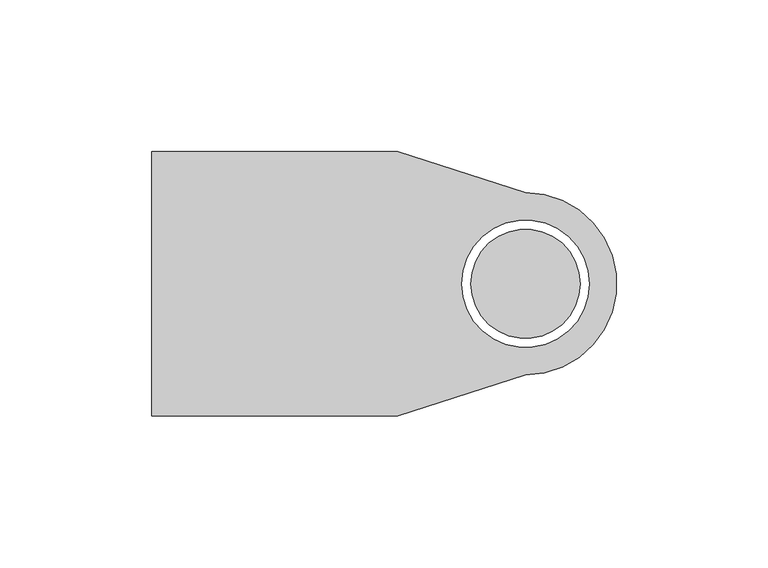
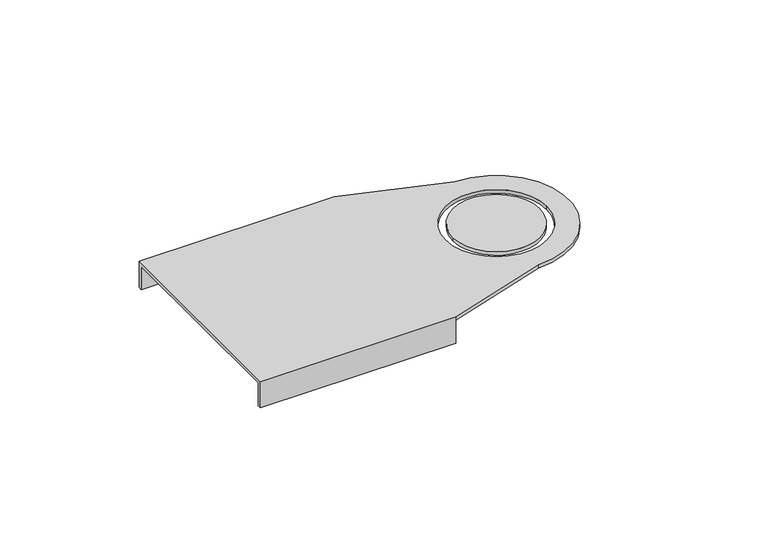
"""IFC4 building model written with IfcOpenShell, lengths in millimetres: cable carrier fitting geometry, BAKS_BEND_Articulated connector_LGP : LGP_H100."""

from ifc_helpers import new_model, si_unit, frame, origin, place, context, project, spatial, polyline, circle_curve, source, transform, mapped, element, save
from ifc_brep_helpers import plane_surface, cylinder_surface, revolved_surface, advanced_brep


def cable_carrier_fitting_c86838e9(model_context):
    return source(origin(), model_context, "Body", "AdvancedBrep", [
        advanced_brep(
        [(-123.0, -43.5, 1.5), (-42.0, -43.5, 1.5), (0.0, -30.0, 1.5), (0.0, 30.0, 1.5), (-42.0, 43.5, 1.5), (-123.0, 43.5, 1.5), (21.0, 0.0, 1.5), (-21.0, 0.0, 1.5), (-42.0, 43.5, 0.0), (0.0, 30.0, 0.0), (0.0, -30.0, 0.0), (-42.0, -43.5, 0.0), (-42.0, -42.0, 0.0), (-123.0, -42.0, 0.0), (-123.0, 42.0, 0.0), (-42.0, 42.0, 0.0), (-21.0, 0.0, 0.0), (21.0, 0.0, 0.0), (-123.0, -43.5, -10.0), (-42.0, -43.5, -10.0), (-42.0, 43.5, -10.0), (-123.0, 43.5, -10.0), (-123.0, 42.0, -10.0), (-123.0, -42.0, -10.0), (-42.0, 42.0, -10.0), (-42.0, -42.0, -10.0)],
        [
            (0, 1),
            (1, 2),
            (2, 3, circle_curve(frame((0.0, 0.0, 1.5), z_axis=(0.0, 0.0, 1.0), x_axis=(-1.0, 0.0, 0.0)), 30.0)),
            (3, 4),
            (4, 5),
            (5, 0),
            (6, 7, circle_curve(frame((0.0, 0.0, 1.5), z_axis=(0.0, 0.0, -1.0), x_axis=(-1.0, 0.0, 0.0)), 21.0)),
            (7, 6, circle_curve(frame((0.0, 0.0, 1.5), z_axis=(0.0, 0.0, -1.0), x_axis=(-1.0, 0.0, 0.0)), 21.0)),
            (8, 9),
            (9, 10, circle_curve(frame((0.0, 0.0, 0.0), z_axis=(0.0, 0.0, -1.0), x_axis=(-1.0, 0.0, 0.0)), 30.0)),
            (10, 11),
            (11, 12),
            (12, 13),
            (13, 14),
            (14, 15),
            (15, 8),
            (16, 17, circle_curve(frame((0.0, 0.0, 0.0), z_axis=(0.0, 0.0, 1.0), x_axis=(-1.0, 0.0, 0.0)), 21.0)),
            (17, 16, circle_curve(frame((0.0, 0.0, 0.0), z_axis=(0.0, 0.0, 1.0), x_axis=(-1.0, 0.0, 0.0)), 21.0)),
            (0, 18),
            (18, 19),
            (19, 11),
            (11, 1),
            (4, 8),
            (8, 20),
            (20, 21),
            (21, 5),
            (21, 22),
            (22, 14),
            (13, 23),
            (23, 18),
            (6, 17),
            (16, 7),
            (10, 2),
            (9, 3),
            (20, 24),
            (24, 22),
            (24, 15),
            (23, 25),
            (25, 19),
            (25, 12),
        ],
        [
            plane_surface(frame((-42.0, -43.5, 1.5), z_axis=(0.0, 0.0, 1.0), x_axis=(1.0, 0.0, 0.0))),
            plane_surface(frame((-42.0, -43.5, 0.0), z_axis=(0.0, 0.0, -1.0), x_axis=(-1.0, 0.0, 0.0))),
            plane_surface(frame((-123.0, -43.5, 1.5), z_axis=(0.0, -1.0, 0.0), x_axis=(0.0, 0.0, -1.0))),
            plane_surface(frame((-42.0, 43.5, 1.5), z_axis=(0.0, 1.0, 0.0), x_axis=(0.0, 0.0, -1.0))),
            plane_surface(frame((-123.0, 43.5, 1.5), z_axis=(-1.0, 0.0, 0.0), x_axis=(0.0, 0.0, -1.0))),
            revolved_surface(polyline([(-21.0, 0.0, 1.5), (-21.0, 0.0, 0.0)]), (0.0, 0.0, 0.0), (0.0, 0.0, 1.0)),
            plane_surface(frame((-42.0, -43.5, 1.5), z_axis=(0.306009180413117, -0.9520285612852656, 0.0), x_axis=(0.0, 0.0, -1.0))),
            cylinder_surface(frame((0.0, 0.0, 0.0), z_axis=(0.0, 0.0, 1.0), x_axis=(-1.0, 0.0, 0.0)), 30.0),
            plane_surface(frame((0.0, 30.0, 1.5), z_axis=(0.30600918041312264, 0.9520285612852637, 0.0), x_axis=(0.0, 0.0, -1.0))),
            plane_surface(frame((-42.0, 42.0, -10.0), z_axis=(0.0, 0.0, -1.0), x_axis=(-1.0, 0.0, 0.0))),
            plane_surface(frame((-123.0, 42.0, 0.0), z_axis=(0.0, -1.0, 0.0), x_axis=(0.0, 0.0, -1.0))),
            plane_surface(frame((-42.0, 42.0, 0.0), z_axis=(1.0, 0.0, 0.0), x_axis=(0.0, 0.0, -1.0))),
            plane_surface(frame((-42.0, -43.5, -10.0), z_axis=(0.0, 0.0, -1.0), x_axis=(-1.0, 0.0, 0.0))),
            plane_surface(frame((-42.0, -43.5, 0.0), z_axis=(1.0, 0.0, 0.0), x_axis=(0.0, 0.0, -1.0))),
            plane_surface(frame((-42.0, -42.0, 0.0), z_axis=(0.0, 1.0, 0.0), x_axis=(0.0, 0.0, -1.0))),
        ],
        [
            (0, [[1, 2, 3, 4, 5, 6], [7, 8]]),
            (1, [[9, 10, 11, 12, 13, 14, 15, 16], [17, 18]]),
            (2, [[-1, 19, 20, 21, 22]]),
            (3, [[-5, 23, 24, 25, 26]]),
            (4, [[-19, -6, -26, 27, 28, -14, 29, 30]]),
            (5, [[31, -17, 32, -7]]),
            (5, [[-31, -8, -32, -18]]),
            (6, [[-2, -22, -11, 33]]),
            (7, [[-3, -33, -10, 34]]),
            (8, [[-4, -34, -9, -23]]),
            (9, [[-27, -25, 35, 36]]),
            (10, [[-36, 37, -15, -28]]),
            (11, [[-35, -24, -16, -37]]),
            (12, [[-30, 38, 39, -20]]),
            (13, [[-39, 40, -12, -21]]),
            (14, [[-38, -29, -13, -40]]),
        ],
    ),
        advanced_brep(
        [(18.0, 0.0, 1.5), (-18.0, 0.0, 1.5), (-18.0, 0.0, 0.0), (18.0, 0.0, 0.0)],
        [
            (0, 1, circle_curve(frame((0.0, 0.0, 1.5), z_axis=(0.0, 0.0, 1.0), x_axis=(-1.0, 0.0, 0.0)), 18.0)),
            (1, 0, circle_curve(frame((0.0, 0.0, 1.5), z_axis=(0.0, 0.0, 1.0), x_axis=(-1.0, 0.0, 0.0)), 18.0)),
            (2, 3, circle_curve(frame((0.0, 0.0, 0.0), z_axis=(0.0, 0.0, -1.0), x_axis=(-1.0, 0.0, 0.0)), 18.0)),
            (3, 2, circle_curve(frame((0.0, 0.0, 0.0), z_axis=(0.0, 0.0, -1.0), x_axis=(-1.0, 0.0, 0.0)), 18.0)),
            (0, 3),
            (2, 1),
        ],
        [
            plane_surface(frame((-42.0, -43.5, 1.5), z_axis=(0.0, 0.0, 1.0), x_axis=(1.0, 0.0, 0.0))),
            plane_surface(frame((-42.0, -43.5, 0.0), z_axis=(0.0, 0.0, -1.0), x_axis=(-1.0, 0.0, 0.0))),
            cylinder_surface(frame((0.0, 0.0, 0.0), z_axis=(0.0, 0.0, -1.0), x_axis=(-1.0, 0.0, 0.0)), 18.0),
        ],
        [
            (0, [[1, 2]]),
            (1, [[3, 4]]),
            (2, [[5, -3, 6, -1]]),
            (2, [[-5, -2, -6, -4]]),
        ],
    ),
    ])


if __name__ == "__main__":
    model = new_model("IFC4")
    model_context = context("Model", 3, world=origin())
    ifc_project = project(units=[si_unit("LENGTHUNIT", "METRE", prefix="MILLI")], contexts=[model_context])
    site = spatial("IfcSite", under=ifc_project)
    building = spatial("IfcBuilding", under=site)
    placement = place(None, origin())
    cable_carrier_fitting_shape = cable_carrier_fitting_c86838e9(model_context)
    element("IfcCableCarrierFitting", 1, ObjectType="BAKS_BEND_Articulated connector_LGP : LGP_H100", at=placement, inside=building, context=model_context, shape_type="MappedRepresentation", body=[
        mapped(cable_carrier_fitting_shape, transform((0.0, 0.0, 0.0), x_axis=(1.0, 0.0, 0.0), y_axis=(0.0, 1.0, 0.0), z_axis=(0.0, 0.0, 1.0))),
    ])
    save(model, "model.ifc")
